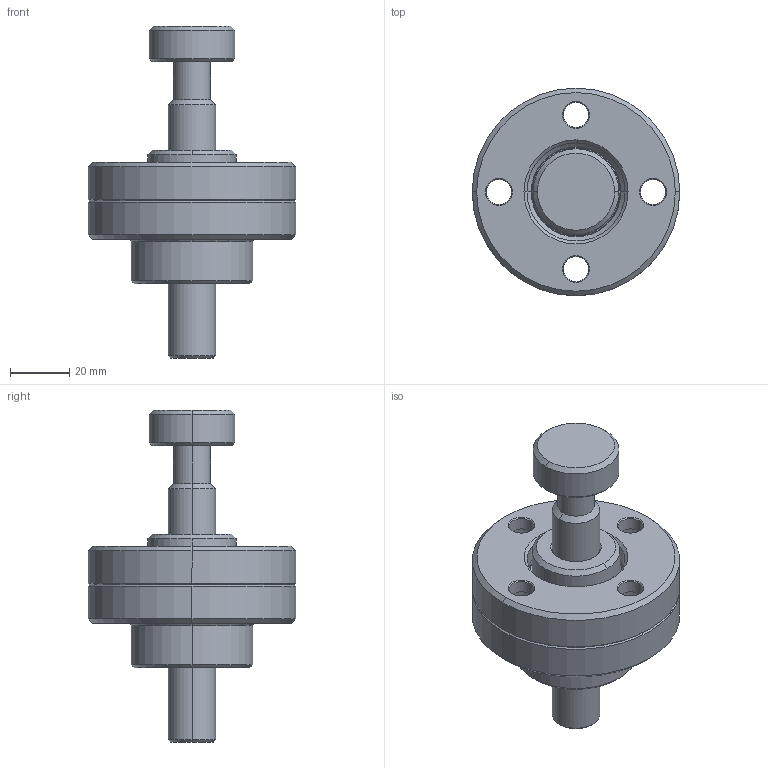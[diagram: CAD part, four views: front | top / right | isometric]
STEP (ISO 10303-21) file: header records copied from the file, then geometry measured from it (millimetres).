
FILE_DESCRIPTION (( 'STEP AP203' ), '1' );
FILE_NAME ('AS_16C.STEP', '2016-04-06T07:48:42', ( 'Balzi' ), ( '' ), 'SwSTEP 2.0', 'SolidWorks 2015', '' );
FILE_SCHEMA (( 'CONFIG_CONTROL_DESIGN' ));
Length unit declared in the file: millimetre
Products named in the file (1): AS_16C
Bounding box: 70 x 70 x 112 mm (x, y, z)
Volume: 126137.5 mm3; surface area: 35648.8 mm2
Topology: 3 solids, 3 shells, 124 faces, 276 edges, 172 vertices
Faces by surface type: cylinder 56, cone 46, plane 20, bspline 2
Entity records: 3619 total; most frequent: DIRECTION 692, CARTESIAN_POINT 609, ORIENTED_EDGE 552, AXIS2_PLACEMENT_3D 295, EDGE_CURVE 276, VERTEX_POINT 172, CIRCLE 172, EDGE_LOOP 158
